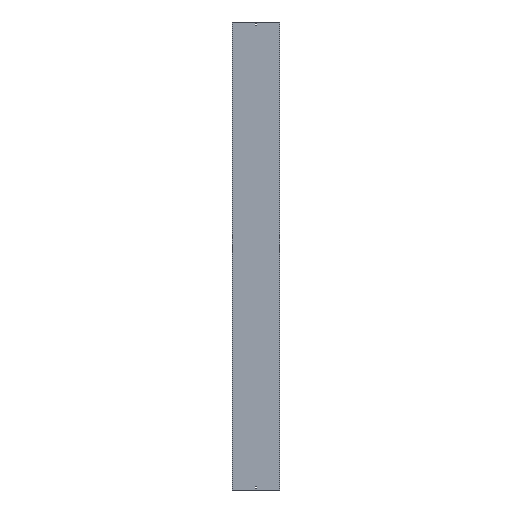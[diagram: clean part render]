
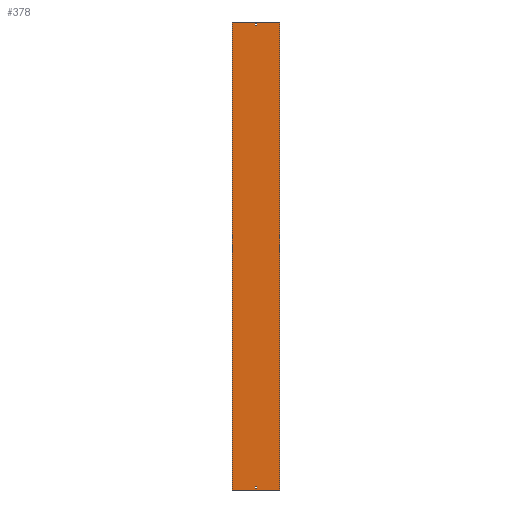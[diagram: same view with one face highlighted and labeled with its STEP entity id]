
A CAD part, front view. The second image highlights one B-rep face of the part: STEP entity #378.
In plain terms, the highlighted planar face has unit normal (0, -1, 0).
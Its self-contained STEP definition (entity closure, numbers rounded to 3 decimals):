
#10 = FACE_BOUND ( 'NONE', #353, .T. ) ;
#14 = VERTEX_POINT ( 'NONE', #1127 ) ;
#26 = VERTEX_POINT ( 'NONE', #514 ) ;
#35 = CARTESIAN_POINT ( 'NONE',  ( -3.25, 0., 1479. ) ) ;
#40 = EDGE_CURVE ( 'NONE', #401, #532, #502, .T. ) ;
#60 = EDGE_LOOP ( 'NONE', ( #366, #1032, #655, #671 ) ) ;
#67 = FACE_BOUND ( 'NONE', #577, .T. ) ;
#71 = CARTESIAN_POINT ( 'NONE',  ( 152., 0., 1500. ) ) ;
#81 = VECTOR ( 'NONE', #548, 1000. ) ;
#114 = VECTOR ( 'NONE', #168, 1000. ) ;
#118 = ORIENTED_EDGE ( 'NONE', *, *, #157, .T. ) ;
#138 = VECTOR ( 'NONE', #925, 1000. ) ;
#157 = EDGE_CURVE ( 'NONE', #460, #439, #822, .T. ) ;
#164 = LINE ( 'NONE', #604, #920 ) ;
#168 = DIRECTION ( 'NONE',  ( 0., 0., -1. ) ) ;
#171 = ORIENTED_EDGE ( 'NONE', *, *, #676, .F. ) ;
#185 = CARTESIAN_POINT ( 'NONE',  ( -152., 0., 1500. ) ) ;
#192 = VECTOR ( 'NONE', #971, 1000. ) ;
#202 = LINE ( 'NONE', #802, #81 ) ;
#203 = CARTESIAN_POINT ( 'NONE',  ( -3.25, 0., -1479. ) ) ;
#233 = EDGE_CURVE ( 'NONE', #935, #933, #429, .T. ) ;
#234 = VERTEX_POINT ( 'NONE', #1035 ) ;
#296 = VECTOR ( 'NONE', #304, 1000. ) ;
#304 = DIRECTION ( 'NONE',  ( 1., 0., 0. ) ) ;
#319 = DIRECTION ( 'NONE',  ( 0., 0., 1. ) ) ;
#324 = CARTESIAN_POINT ( 'NONE',  ( -3.25, 0., 1479. ) ) ;
#325 = ORIENTED_EDGE ( 'NONE', *, *, #927, .T. ) ;
#326 = CARTESIAN_POINT ( 'NONE',  ( 152., 0., -1500. ) ) ;
#336 = VECTOR ( 'NONE', #879, 1000. ) ;
#353 = EDGE_LOOP ( 'NONE', ( #1117, #118, #325, #853 ) ) ;
#356 = VECTOR ( 'NONE', #319, 1000. ) ;
#366 = ORIENTED_EDGE ( 'NONE', *, *, #541, .T. ) ;
#369 = LINE ( 'NONE', #895, #698 ) ;
#378 = ADVANCED_FACE ( 'NONE', ( #841, #67, #10 ), #782, .F. ) ;
#383 = LINE ( 'NONE', #899, #892 ) ;
#400 = DIRECTION ( 'NONE',  ( 1., 0., 0. ) ) ;
#401 = VERTEX_POINT ( 'NONE', #696 ) ;
#410 = VECTOR ( 'NONE', #760, 1000. ) ;
#418 = EDGE_CURVE ( 'NONE', #401, #665, #961, .T. ) ;
#429 = LINE ( 'NONE', #681, #114 ) ;
#436 = DIRECTION ( 'NONE',  ( -1., 0., 0. ) ) ;
#439 = VERTEX_POINT ( 'NONE', #715 ) ;
#458 = CARTESIAN_POINT ( 'NONE',  ( -152., 0., -1500. ) ) ;
#460 = VERTEX_POINT ( 'NONE', #981 ) ;
#467 = EDGE_CURVE ( 'NONE', #665, #706, #202, .T. ) ;
#484 = LINE ( 'NONE', #324, #1015 ) ;
#502 = LINE ( 'NONE', #1120, #192 ) ;
#514 = CARTESIAN_POINT ( 'NONE',  ( 3.25, 0., 1488. ) ) ;
#532 = VERTEX_POINT ( 'NONE', #458 ) ;
#541 = EDGE_CURVE ( 'NONE', #532, #706, #383, .T. ) ;
#548 = DIRECTION ( 'NONE',  ( 0., 0., -1. ) ) ;
#572 = LINE ( 'NONE', #738, #138 ) ;
#573 = EDGE_CURVE ( 'NONE', #862, #460, #1106, .T. ) ;
#577 = EDGE_LOOP ( 'NONE', ( #600, #737, #171, #772 ) ) ;
#589 = CARTESIAN_POINT ( 'NONE',  ( 3.25, 0., 1488. ) ) ;
#600 = ORIENTED_EDGE ( 'NONE', *, *, #1060, .F. ) ;
#604 = CARTESIAN_POINT ( 'NONE',  ( -3.25, 0., -1488. ) ) ;
#608 = AXIS2_PLACEMENT_3D ( 'NONE', #185, #1130, #436 ) ;
#655 = ORIENTED_EDGE ( 'NONE', *, *, #418, .F. ) ;
#665 = VERTEX_POINT ( 'NONE', #71 ) ;
#671 = ORIENTED_EDGE ( 'NONE', *, *, #40, .T. ) ;
#676 = EDGE_CURVE ( 'NONE', #26, #935, #572, .T. ) ;
#681 = CARTESIAN_POINT ( 'NONE',  ( -3.25, 0., 1488. ) ) ;
#696 = CARTESIAN_POINT ( 'NONE',  ( -152., 0., 1500. ) ) ;
#698 = VECTOR ( 'NONE', #1069, 1000. ) ;
#706 = VERTEX_POINT ( 'NONE', #326 ) ;
#715 = CARTESIAN_POINT ( 'NONE',  ( 3.25, 0., -1479. ) ) ;
#723 = CARTESIAN_POINT ( 'NONE',  ( -3.25, 0., 1488. ) ) ;
#737 = ORIENTED_EDGE ( 'NONE', *, *, #233, .F. ) ;
#738 = CARTESIAN_POINT ( 'NONE',  ( -3.25, 0., 1488. ) ) ;
#746 = LINE ( 'NONE', #589, #356 ) ;
#760 = DIRECTION ( 'NONE',  ( 0., 0., 1. ) ) ;
#772 = ORIENTED_EDGE ( 'NONE', *, *, #1013, .F. ) ;
#782 = PLANE ( 'NONE',  #608 ) ;
#802 = CARTESIAN_POINT ( 'NONE',  ( 152., 0., 1500. ) ) ;
#807 = DIRECTION ( 'NONE',  ( 1., 0., 0. ) ) ;
#822 = LINE ( 'NONE', #203, #296 ) ;
#841 = FACE_OUTER_BOUND ( 'NONE', #60, .T. ) ;
#853 = ORIENTED_EDGE ( 'NONE', *, *, #1082, .T. ) ;
#862 = VERTEX_POINT ( 'NONE', #883 ) ;
#879 = DIRECTION ( 'NONE',  ( 1., 0., 0. ) ) ;
#883 = CARTESIAN_POINT ( 'NONE',  ( -3.25, 0., -1488. ) ) ;
#892 = VECTOR ( 'NONE', #807, 1000. ) ;
#895 = CARTESIAN_POINT ( 'NONE',  ( 3.25, 0., -1488. ) ) ;
#899 = CARTESIAN_POINT ( 'NONE',  ( -152., 0., -1500. ) ) ;
#920 = VECTOR ( 'NONE', #943, 1000. ) ;
#925 = DIRECTION ( 'NONE',  ( -1., 0., 0. ) ) ;
#927 = EDGE_CURVE ( 'NONE', #439, #14, #369, .T. ) ;
#933 = VERTEX_POINT ( 'NONE', #35 ) ;
#935 = VERTEX_POINT ( 'NONE', #723 ) ;
#943 = DIRECTION ( 'NONE',  ( -1., 0., 0. ) ) ;
#961 = LINE ( 'NONE', #1048, #336 ) ;
#971 = DIRECTION ( 'NONE',  ( 0., 0., -1. ) ) ;
#981 = CARTESIAN_POINT ( 'NONE',  ( -3.25, 0., -1479. ) ) ;
#1010 = CARTESIAN_POINT ( 'NONE',  ( -3.25, 0., -1488. ) ) ;
#1013 = EDGE_CURVE ( 'NONE', #234, #26, #746, .T. ) ;
#1015 = VECTOR ( 'NONE', #400, 1000. ) ;
#1032 = ORIENTED_EDGE ( 'NONE', *, *, #467, .F. ) ;
#1035 = CARTESIAN_POINT ( 'NONE',  ( 3.25, 0., 1479. ) ) ;
#1048 = CARTESIAN_POINT ( 'NONE',  ( -152., 0., 1500. ) ) ;
#1060 = EDGE_CURVE ( 'NONE', #933, #234, #484, .T. ) ;
#1069 = DIRECTION ( 'NONE',  ( 0., 0., -1. ) ) ;
#1082 = EDGE_CURVE ( 'NONE', #14, #862, #164, .T. ) ;
#1106 = LINE ( 'NONE', #1010, #410 ) ;
#1117 = ORIENTED_EDGE ( 'NONE', *, *, #573, .T. ) ;
#1120 = CARTESIAN_POINT ( 'NONE',  ( -152., 0., 1500. ) ) ;
#1127 = CARTESIAN_POINT ( 'NONE',  ( 3.25, 0., -1488. ) ) ;
#1130 = DIRECTION ( 'NONE',  ( 0., 1., 0. ) ) ;
